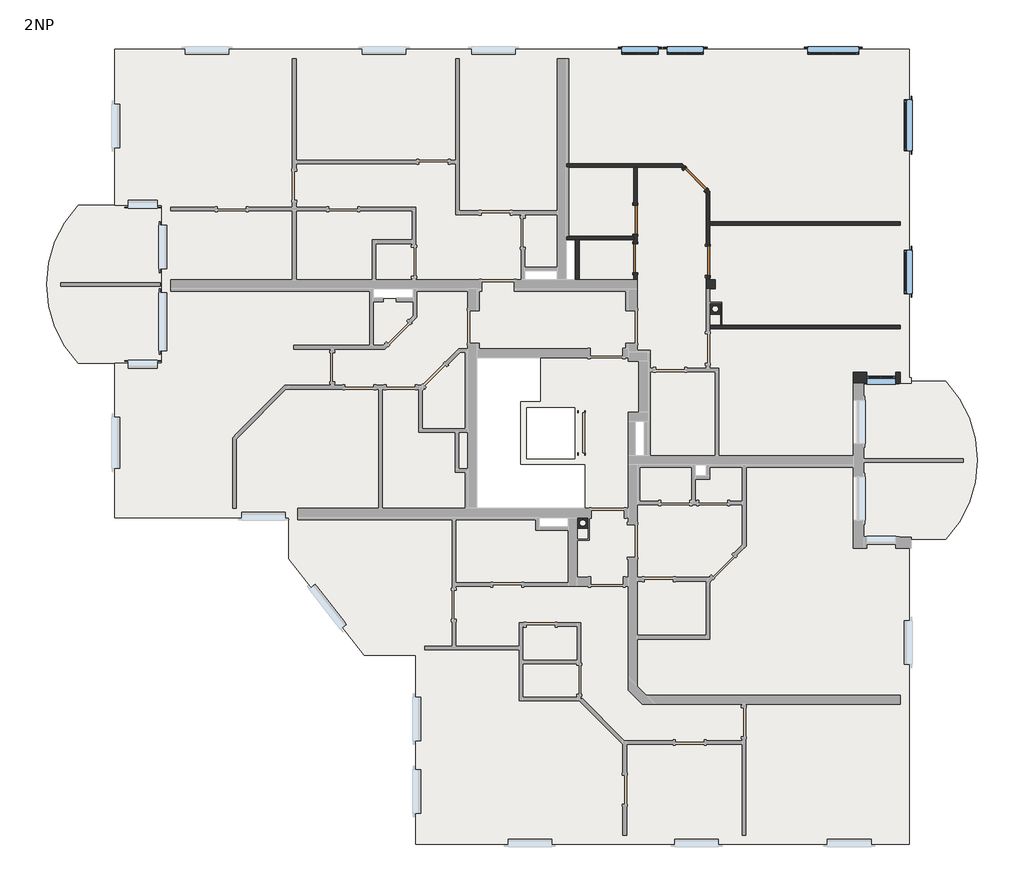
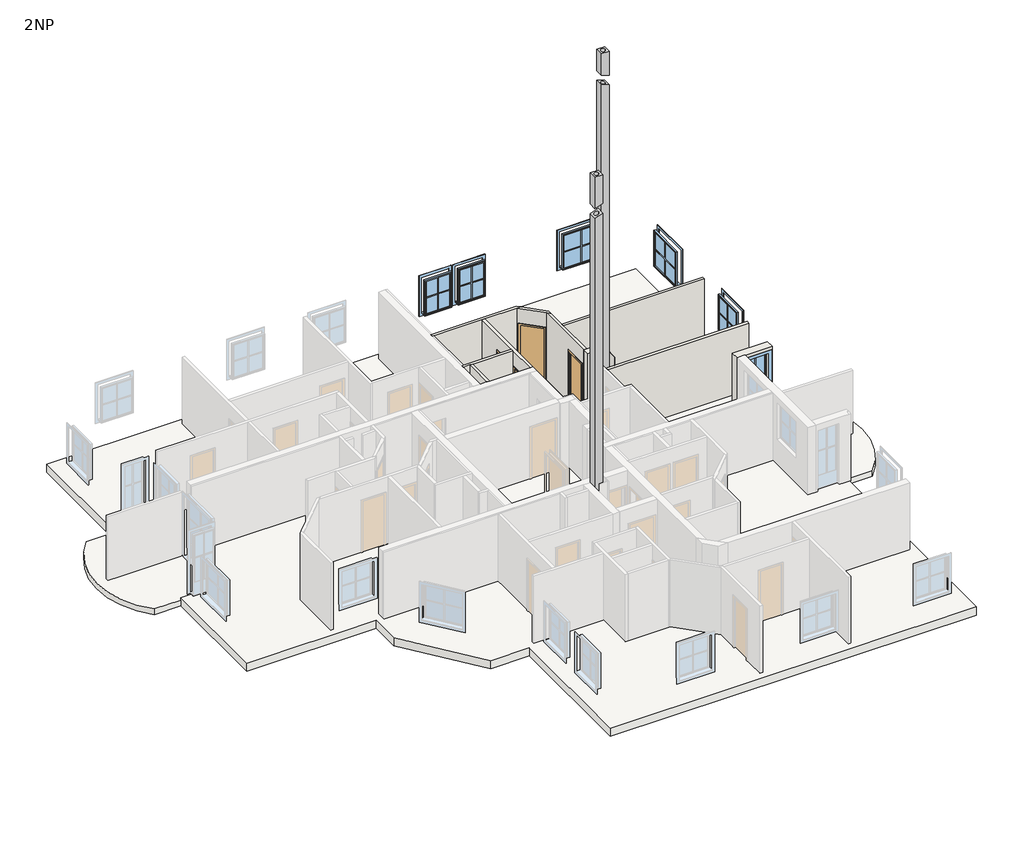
# One storey, part 4 of 4: 11 walls, 6 windows, 4 doors, 3 slabs, 2 columns.
"""IFC4 building model written with IfcOpenShell, lengths in millimetres."""

from ifc_helpers import new_model, si_unit, frame, origin, place, context, project, spatial, polyline, circle_curve, ellipse_curve, outline, extrude, faceted_brep, transform, mapped, element, save
from ifc_brep_helpers import plane_surface, cylinder_surface, revolved_surface, advanced_brep
from components import sd_800x2000_80f4ff25, standard_window_with_mullions_d3525f46, standard_window_with_mullions_80486b60, standard_window_with_mullions_12e20a72, window_2_4fa60929

model = new_model("IFC4")

# Units and contexts
model_context = context("Model", 3, world=origin())
ifc_project = project(units=[si_unit("LENGTHUNIT", "METRE", prefix="MILLI")], contexts=[model_context])

# Site, building, storey
site = spatial("IfcSite", under=ifc_project)
building = spatial("IfcBuilding", under=site)
storey = spatial("IfcBuildingStorey", under=building, Name="2NP", Elevation=2950.0)

# Columns
placement = place(None, origin())
element("IfcColumn", 1, ObjectType="AT Kamin : 300/300/160", at=placement, inside=storey, context=model_context, shape_type="AdvancedBrep", body=[
    advanced_brep(
    [(463.5618728, -2082.3709459, 17750.0), (163.5618728, -2082.3709459, 17750.0), (163.5618728, -2382.3709459, 17750.0), (463.5618728, -2382.3709459, 17750.0), (233.5618728, -2232.3709459, 17750.0), (393.5618728, -2232.3709459, 17750.0), (463.5618728, -2082.3709459, 16623.4506996), (163.5618728, -2082.3709459, 16525.9747908), (163.5618728, -2382.3709459, 16525.9747908), (463.5618728, -2382.3709459, 16623.4506996), (233.5618728, -2232.3709459, 16548.7191695), (393.5618728, -2232.3709459, 16600.7063209)],
    [
        (0, 1),
        (1, 2),
        (2, 3),
        (3, 0),
        (4, 5, circle_curve(frame((313.5618728, -2232.3709459, 17750.0), z_axis=(0.0, 0.0, -1.0), x_axis=(1.0, 0.0, 0.0)), 80.0)),
        (5, 4, circle_curve(frame((313.5618728, -2232.3709459, 17750.0), z_axis=(0.0, 0.0, -1.0), x_axis=(1.0, 0.0, 0.0)), 80.0)),
        (0, 6),
        (6, 7),
        (7, 1),
        (7, 8),
        (8, 2),
        (8, 9),
        (9, 3),
        (9, 6),
        (4, 10),
        (10, 11, ellipse_curve(frame((313.5618728, -2232.3709459, 16574.7127452), z_axis=(0.30901699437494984, 0.0, -0.9510565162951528), x_axis=(-0.9510565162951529, 0.0, -0.30901699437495)), 84.1169779, 80.0)),
        (11, 5),
        (11, 10, ellipse_curve(frame((313.5618728, -2232.3709459, 16574.7127452), z_axis=(0.30901699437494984, 0.0, -0.9510565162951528), x_axis=(-0.9510565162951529, 0.0, -0.30901699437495)), 84.1169779, 80.0)),
    ],
    [
        plane_surface(frame((163.5618728, -2082.3709459, 17750.0), z_axis=(0.0, 0.0, 1.0), x_axis=(-1.0, 0.0, 0.0))),
        plane_surface(frame((463.5618728, -2082.3709459, 17750.0), z_axis=(0.0, 1.0, 0.0), x_axis=(0.0, 0.0, -1.0))),
        plane_surface(frame((163.5618728, -2082.3709459, 17750.0), z_axis=(-1.0, 0.0, 0.0), x_axis=(0.0, 0.0, -1.0))),
        plane_surface(frame((163.5618728, -2382.3709459, 17750.0), z_axis=(0.0, -1.0, 0.0), x_axis=(0.0, 0.0, -1.0))),
        plane_surface(frame((463.5618728, -2382.3709459, 17750.0), z_axis=(1.0, 0.0, 0.0), x_axis=(0.0, 0.0, -1.0))),
        revolved_surface(polyline([(393.5618728, -2232.3709459, 16548.7191695), (393.5618728, -2232.3709459, 17750.0)]), (313.5618728, -2232.3709459, 2950.0), (0.0, 0.0, -1.0)),
        plane_surface(frame((-1841.5846805, 437.0391776, 15874.4631818), z_axis=(0.30901699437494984, 0.0, -0.9510565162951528), x_axis=(0.0, -1.0, 0.0))),
    ],
    [
        (0, [[1, 2, 3, 4], [5, 6]]),
        (1, [[-1, 7, 8, 9]]),
        (2, [[-2, -9, 10, 11]]),
        (3, [[-3, -11, 12, 13]]),
        (4, [[-4, -13, 14, -7]]),
        (5, [[-5, 15, 16, 17]]),
        (5, [[-6, -17, 18, -15]]),
        (6, [[-8, -14, -12, -10], [-16, -18]]),
    ],
),
    advanced_brep(
    [(463.5618728, -2082.3709459, 2950.0), (463.5618728, -2382.3709459, 2950.0), (163.5618728, -2382.3709459, 2950.0), (163.5618728, -2082.3709459, 2950.0), (233.5618728, -2232.3709459, 2950.0), (393.5618728, -2232.3709459, 2950.0), (463.5618728, -2082.3709459, 16244.9242989), (163.5618728, -2082.3709459, 16147.44839), (163.5618728, -2382.3709459, 16147.44839), (463.5618728, -2382.3709459, 16244.9242989), (233.5618728, -2232.3709459, 16170.1927688), (393.5618728, -2232.3709459, 16222.1799202), (163.5618728, -2082.3709459, 5580.0), (163.5618728, -2082.3709459, 5900.0), (163.5618728, -2082.3709459, 8530.0), (163.5618728, -2082.3709459, 11800.0), (463.5618728, -2082.3709459, 14750.0), (463.5618728, -2082.3709459, 11800.0), (463.5618728, -2082.3709459, 8850.0), (463.5618728, -2082.3709459, 5900.0)],
    [
        (0, 1),
        (1, 2),
        (2, 3),
        (3, 0),
        (4, 5, circle_curve(frame((313.5618728, -2232.3709459, 2950.0), z_axis=(0.0, 0.0, 1.0), x_axis=(1.0, 0.0, 0.0)), 80.0)),
        (5, 4, circle_curve(frame((313.5618728, -2232.3709459, 2950.0), z_axis=(0.0, 0.0, 1.0), x_axis=(1.0, 0.0, 0.0)), 80.0)),
        (6, 7),
        (7, 8),
        (8, 9),
        (9, 6),
        (10, 11, ellipse_curve(frame((313.5618728, -2232.3709459, 16196.1863445), z_axis=(0.30901699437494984, 0.0, -0.9510565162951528), x_axis=(-0.9510565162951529, 0.0, -0.30901699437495)), 84.1169779, 80.0)),
        (11, 10, ellipse_curve(frame((313.5618728, -2232.3709459, 16196.1863445), z_axis=(0.30901699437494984, 0.0, -0.9510565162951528), x_axis=(-0.9510565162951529, 0.0, -0.30901699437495)), 84.1169779, 80.0)),
        (3, 12),
        (12, 13),
        (13, 14),
        (14, 15),
        (15, 7),
        (6, 16),
        (16, 17),
        (17, 18),
        (18, 19),
        (19, 0),
        (2, 8),
        (1, 9),
        (5, 11),
        (10, 4),
    ],
    [
        plane_surface(frame((163.5618728, -2082.3709459, 2950.0), z_axis=(0.0, 0.0, -1.0), x_axis=(1.0, 0.0, 0.0))),
        plane_surface(frame((-1841.5846805, 437.0391776, 15495.936781), z_axis=(-0.30901699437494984, 0.0, 0.9510565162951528), x_axis=(0.0, -1.0, 0.0))),
        plane_surface(frame((463.5618728, -2082.3709459, 17750.0), z_axis=(0.0, 1.0, 0.0), x_axis=(0.0, 0.0, -1.0))),
        plane_surface(frame((163.5618728, -2082.3709459, 17750.0), z_axis=(-1.0, 0.0, 0.0), x_axis=(0.0, 0.0, -1.0))),
        plane_surface(frame((163.5618728, -2382.3709459, 17750.0), z_axis=(0.0, -1.0, 0.0), x_axis=(0.0, 0.0, -1.0))),
        plane_surface(frame((463.5618728, -2382.3709459, 17750.0), z_axis=(1.0, 0.0, 0.0), x_axis=(0.0, 0.0, -1.0))),
        revolved_surface(polyline([(393.5618728, -2232.3709459, 2950.0), (393.5618728, -2232.3709459, 16222.1799202)]), (313.5618728, -2232.3709459, 2950.0), (0.0, 0.0, -1.0)),
    ],
    [
        (0, [[1, 2, 3, 4], [5, 6]]),
        (1, [[7, 8, 9, 10], [11, 12]]),
        (2, [[-4, 13, 14, 15, 16, 17, -7, 18, 19, 20, 21, 22]]),
        (3, [[-3, 23, -8, -17, -16, -15, -14, -13]]),
        (4, [[-2, 24, -9, -23]]),
        (5, [[-1, -22, -21, -20, -19, -18, -10, -24]]),
        (6, [[-6, 25, -11, 26]]),
        (6, [[-5, -26, -12, -25]]),
    ],
),
])
element("IfcColumn", 2, ObjectType="AT Kamin : 300/300/160", at=placement, inside=storey, context=model_context, shape_type="AdvancedBrep", body=[
    advanced_brep(
    [(4112.8037835, 3816.2076978, 17750.0), (3812.8037835, 3816.2076978, 17750.0), (3812.8037835, 3516.2076978, 17750.0), (4112.8037835, 3516.2076978, 17750.0), (3882.8037835, 3666.2076978, 17750.0), (4042.8037835, 3666.2076978, 17750.0), (4112.8037835, 3816.2076978, 16807.8848523), (3812.8037835, 3816.2076978, 16905.3607612), (3812.8037835, 3516.2076978, 16905.3607612), (4112.8037835, 3516.2076978, 16807.8848523), (3882.8037835, 3666.2076978, 16882.6163825), (4042.8037835, 3666.2076978, 16830.6292311)],
    [
        (0, 1),
        (1, 2),
        (2, 3),
        (3, 0),
        (4, 5, circle_curve(frame((3962.8037835, 3666.2076978, 17750.0), z_axis=(0.0, 0.0, -1.0), x_axis=(1.0, 0.0, 0.0)), 80.0)),
        (5, 4, circle_curve(frame((3962.8037835, 3666.2076978, 17750.0), z_axis=(0.0, 0.0, -1.0), x_axis=(1.0, 0.0, 0.0)), 80.0)),
        (0, 6),
        (6, 7),
        (7, 1),
        (7, 8),
        (8, 2),
        (8, 9),
        (9, 3),
        (9, 6),
        (4, 10),
        (10, 11, ellipse_curve(frame((3962.8037835, 3666.2076978, 16856.6228068), z_axis=(-0.30901699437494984, 0.0, -0.9510565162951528), x_axis=(0.9510565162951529, 0.0, -0.30901699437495)), 84.1169779, 80.0)),
        (11, 5),
        (11, 10, ellipse_curve(frame((3962.8037835, 3666.2076978, 16856.6228068), z_axis=(-0.30901699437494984, 0.0, -0.9510565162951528), x_axis=(0.9510565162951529, 0.0, -0.30901699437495)), 84.1169779, 80.0)),
    ],
    [
        plane_surface(frame((3812.8037835, 3816.2076978, 17750.0), z_axis=(0.0, 0.0, 1.0), x_axis=(-1.0, 0.0, 0.0))),
        plane_surface(frame((4112.8037835, 3816.2076978, 17750.0), z_axis=(0.0, 1.0, 0.0), x_axis=(0.0, 0.0, -1.0))),
        plane_surface(frame((3812.8037835, 3816.2076978, 17750.0), z_axis=(-1.0, 0.0, 0.0), x_axis=(0.0, 0.0, -1.0))),
        plane_surface(frame((3812.8037835, 3516.2076978, 17750.0), z_axis=(0.0, -1.0, 0.0), x_axis=(0.0, 0.0, -1.0))),
        plane_surface(frame((4112.8037835, 3516.2076978, 17750.0), z_axis=(1.0, 0.0, 0.0), x_axis=(0.0, 0.0, -1.0))),
        revolved_surface(polyline([(4042.8037835, 3666.2076978, 16830.6292311), (4042.8037835, 3666.2076978, 17750.0)]), (3962.8037835, 3666.2076978, 2950.0), (0.0, 0.0, -1.0)),
        plane_surface(frame((6985.5802922, -11532.3709459, 15874.4631818), z_axis=(-0.30901699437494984, 0.0, -0.9510565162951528), x_axis=(0.0, 1.0, 0.0))),
    ],
    [
        (0, [[1, 2, 3, 4], [5, 6]]),
        (1, [[-1, 7, 8, 9]]),
        (2, [[-2, -9, 10, 11]]),
        (3, [[-3, -11, 12, 13]]),
        (4, [[-4, -13, 14, -7]]),
        (5, [[-5, 15, 16, 17]]),
        (5, [[-6, -17, 18, -15]]),
        (6, [[-8, -14, -12, -10], [-16, -18]]),
    ],
),
    advanced_brep(
    [(4112.8037835, 3816.2076978, 2950.0), (4112.8037835, 3516.2076978, 2950.0), (3812.8037835, 3516.2076978, 2950.0), (3812.8037835, 3816.2076978, 2950.0), (3882.8037835, 3666.2076978, 2950.0), (4042.8037835, 3666.2076978, 2950.0), (4112.8037835, 3816.2076978, 16429.3584516), (3812.8037835, 3816.2076978, 16526.8343605), (3812.8037835, 3516.2076978, 16526.8343605), (4112.8037835, 3516.2076978, 16429.3584516), (3882.8037835, 3666.2076978, 16504.0899817), (4042.8037835, 3666.2076978, 16452.1028303), (3812.8037835, 3816.2076978, 5900.0), (4112.8037835, 3816.2076978, 5900.0)],
    [
        (0, 1),
        (1, 2),
        (2, 3),
        (3, 0),
        (4, 5, circle_curve(frame((3962.8037835, 3666.2076978, 2950.0), z_axis=(0.0, 0.0, 1.0), x_axis=(1.0, 0.0, 0.0)), 80.0)),
        (5, 4, circle_curve(frame((3962.8037835, 3666.2076978, 2950.0), z_axis=(0.0, 0.0, 1.0), x_axis=(1.0, 0.0, 0.0)), 80.0)),
        (6, 7),
        (7, 8),
        (8, 9),
        (9, 6),
        (10, 11, ellipse_curve(frame((3962.8037835, 3666.2076978, 16478.096406), z_axis=(-0.30901699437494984, 0.0, -0.9510565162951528), x_axis=(0.9510565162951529, 0.0, -0.30901699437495)), 84.1169779, 80.0)),
        (11, 10, ellipse_curve(frame((3962.8037835, 3666.2076978, 16478.096406), z_axis=(-0.30901699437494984, 0.0, -0.9510565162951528), x_axis=(0.9510565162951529, 0.0, -0.30901699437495)), 84.1169779, 80.0)),
        (3, 12),
        (12, 7),
        (6, 13),
        (13, 0),
        (2, 8),
        (1, 9),
        (5, 11),
        (10, 4),
    ],
    [
        plane_surface(frame((3812.8037835, 3816.2076978, 2950.0), z_axis=(0.0, 0.0, -1.0), x_axis=(1.0, 0.0, 0.0))),
        plane_surface(frame((6985.5802922, -11532.3709459, 15495.936781), z_axis=(0.30901699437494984, 0.0, 0.9510565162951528), x_axis=(0.0, 1.0, 0.0))),
        plane_surface(frame((4112.8037835, 3816.2076978, 17750.0), z_axis=(0.0, 1.0, 0.0), x_axis=(0.0, 0.0, -1.0))),
        plane_surface(frame((3812.8037835, 3816.2076978, 17750.0), z_axis=(-1.0, 0.0, 0.0), x_axis=(0.0, 0.0, -1.0))),
        plane_surface(frame((3812.8037835, 3516.2076978, 17750.0), z_axis=(0.0, -1.0, 0.0), x_axis=(0.0, 0.0, -1.0))),
        plane_surface(frame((4112.8037835, 3516.2076978, 17750.0), z_axis=(1.0, 0.0, 0.0), x_axis=(0.0, 0.0, -1.0))),
        revolved_surface(polyline([(4042.8037835, 3666.2076978, 2950.0), (4042.8037835, 3666.2076978, 16504.0899817)]), (3962.8037835, 3666.2076978, 2950.0), (0.0, 0.0, -1.0)),
    ],
    [
        (0, [[1, 2, 3, 4], [5, 6]]),
        (1, [[7, 8, 9, 10], [11, 12]]),
        (2, [[-4, 13, 14, -7, 15, 16]]),
        (3, [[-3, 17, -8, -14, -13]]),
        (4, [[-2, 18, -9, -17]]),
        (5, [[-1, -16, -15, -10, -18]]),
        (6, [[-6, 19, -11, 20]]),
        (6, [[-5, -20, -12, -19]]),
    ],
),
])

# Doors
sd_800x2000_shape = sd_800x2000_80f4ff25(model_context)
element("IfcDoor", 3, ObjectType="JednokridlePlne : SD 800x2000", at=placement, inside=storey, context=model_context, shape_type="MappedRepresentation", body=[
    mapped(sd_800x2000_shape, transform((3762.8037835, 4988.8717038, 2950.0), x_axis=(0.0, -1.0, 0.0), y_axis=(1.0, 0.0, 0.0), z_axis=(0.0, 0.0, 1.0))),
])
element("IfcDoor", 4, ObjectType="JednokridlePlne : SD 800x2000", at=placement, inside=storey, context=model_context, shape_type="MappedRepresentation", body=[
    mapped(sd_800x2000_shape, transform((3410.8458954, 7240.2976203, 2950.0), x_axis=(0.7071067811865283, -0.7071067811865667, 0.0), y_axis=(0.7071067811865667, 0.7071067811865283, 0.0), z_axis=(0.0, 0.0, 1.0))),
])
element("IfcDoor", 5, ObjectType="JednokridlePlne : SD 800x2000", at=placement, inside=storey, context=model_context, shape_type="MappedRepresentation", body=[
    mapped(sd_800x2000_shape, transform((1762.8037835, 5063.1824611, 2950.0), x_axis=(0.0, 1.0, 0.0), y_axis=(-1.0, 0.0, 0.0), z_axis=(0.0, 0.0, 1.0))),
])
element("IfcDoor", 6, ObjectType="JednokridlePlne : SD 800x2000", at=placement, inside=storey, context=model_context, shape_type="MappedRepresentation", body=[
    mapped(sd_800x2000_shape, transform((1762.8037835, 6127.9240135, 2950.0), x_axis=(0.0, -1.0, 0.0), y_axis=(1.0, 0.0, 0.0), z_axis=(0.0, 0.0, 1.0))),
])

# Slabs
element("IfcSlab", 7, ObjectType="Concrete", at=placement, inside=storey, context=model_context, shape_type="AdvancedBrep", body=[
    advanced_brep(
    [(-11287.1962165, 6517.6290541, 2630.0), (-11287.1962165, 2167.6290541, 2630.0), (-12587.1962165, 2167.6290541, 2630.0), (-13585.5822754, 2167.6290541, 2630.0), (-13585.5822754, 6517.6290541, 2630.0), (-12587.1962165, 6517.6290541, 2630.0), (-11287.1962165, 6517.6290541, 2850.0), (-12587.1962165, 6517.6290541, 2850.0), (-13585.5822754, 6517.6290541, 2850.0), (-13585.5822754, 2167.6290541, 2850.0), (-12587.1962165, 2167.6290541, 2850.0), (-12337.1962165, 2167.6290541, 2850.0), (-11287.1962165, 2167.6290541, 2850.0), (-11287.1962165, 2217.6290541, 2850.0), (-11287.1962165, 6467.6290541, 2850.0)],
    [
        (0, 1),
        (1, 2),
        (2, 3),
        (3, 4, circle_curve(frame((-11337.1962165, 4342.6290541, 2630.0), z_axis=(0.0, 0.0, -1.0), x_axis=(1.0, 0.0, 0.0)), 3128.236703)),
        (4, 5),
        (5, 0),
        (6, 7),
        (7, 8),
        (8, 9, circle_curve(frame((-11337.1962165, 4342.6290541, 2850.0), z_axis=(0.0, 0.0, 1.0), x_axis=(1.0, 0.0, 0.0)), 3128.236703)),
        (9, 10),
        (10, 11),
        (11, 12),
        (12, 13),
        (13, 14),
        (14, 6),
        (0, 6),
        (12, 1),
        (9, 3),
        (8, 4),
    ],
    [
        plane_surface(frame((-11287.1962165, 6517.6290541, 2630.0), z_axis=(0.0, 0.0, -1.0), x_axis=(0.0, -1.0, 0.0))),
        plane_surface(frame((-11287.1962165, 6517.6290541, 2850.0), z_axis=(0.0, 0.0, 1.0), x_axis=(0.0, 1.0, 0.0))),
        plane_surface(frame((-11287.1962165, 6517.6290541, 2630.0), z_axis=(1.0, 0.0, 0.0), x_axis=(0.0, 0.0, 1.0))),
        plane_surface(frame((-11287.1962165, 2167.6290541, 2630.0), z_axis=(0.0, -1.0, 0.0), x_axis=(0.0, 0.0, 1.0))),
        cylinder_surface(frame((-11337.1962165, 4342.6290541, 2850.0), z_axis=(0.0, 0.0, -1.0), x_axis=(1.0, 0.0, 0.0)), 3128.236703),
        plane_surface(frame((-13585.5822754, 6517.6290541, 2630.0), z_axis=(0.0, 1.0, 0.0), x_axis=(0.0, 0.0, 1.0))),
    ],
    [
        (0, [[1, 2, 3, 4, 5, 6]]),
        (1, [[7, 8, 9, 10, 11, 12, 13, 14, 15]]),
        (2, [[-1, 16, -15, -14, -13, 17]]),
        (3, [[-3, -2, -17, -12, -11, -10, 18]]),
        (4, [[-4, -18, -9, 19]]),
        (5, [[-6, -5, -19, -8, -7, -16]]),
    ],
),
])
element("IfcSlab", 8, ObjectType="Concrete", at=placement, inside=storey, context=model_context, shape_type="AdvancedBrep", body=[
    advanced_brep(
    [(10311.1898424, 1667.6290541, 2630.0), (10311.1898424, -2682.3709459, 2630.0), (9362.8037835, -2682.3709459, 2630.0), (8012.8037835, -2682.3709459, 2630.0), (8012.8037835, 1667.6290541, 2630.0), (9362.8037835, 1667.6290541, 2630.0), (10311.1898424, 1667.6290541, 2850.0), (8012.8037835, 1667.6290541, 2850.0), (8012.8037835, -2682.3709459, 2850.0), (10311.1898424, -2682.3709459, 2850.0)],
    [
        (0, 1, circle_curve(frame((8062.8037835, -507.3709459, 2630.0), z_axis=(0.0, 0.0, -1.0), x_axis=(1.0, 0.0, 0.0)), 3128.236703)),
        (1, 2),
        (2, 3),
        (3, 4),
        (4, 5),
        (5, 0),
        (6, 7),
        (7, 8),
        (8, 9),
        (9, 6, circle_curve(frame((8062.8037835, -507.3709459, 2850.0), z_axis=(0.0, 0.0, 1.0), x_axis=(1.0, 0.0, 0.0)), 3128.236703)),
        (0, 6),
        (9, 1),
        (8, 3),
        (7, 4),
    ],
    [
        plane_surface(frame((11191.0404865, -507.3709459, 2630.0), z_axis=(0.0, 0.0, -1.0), x_axis=(0.0, -1.0, 0.0))),
        plane_surface(frame((11191.0404865, -507.3709459, 2850.0), z_axis=(0.0, 0.0, 1.0), x_axis=(0.0, 1.0, 0.0))),
        cylinder_surface(frame((8062.8037835, -507.3709459, 2850.0), z_axis=(0.0, 0.0, -1.0), x_axis=(1.0, 0.0, 0.0)), 3128.236703),
        plane_surface(frame((10311.1898424, -2682.3709459, 2630.0), z_axis=(0.0, -1.0, 0.0), x_axis=(0.0, 0.0, 1.0))),
        plane_surface(frame((8012.8037835, -2682.3709459, 2630.0), z_axis=(-1.0, 0.0, 0.0), x_axis=(0.0, 0.0, 1.0))),
        plane_surface(frame((8012.8037835, 1667.6290541, 2630.0), z_axis=(0.0, 1.0, 0.0), x_axis=(0.0, 0.0, 1.0))),
    ],
    [
        (0, [[1, 2, 3, 4, 5, 6]]),
        (1, [[7, 8, 9, 10]]),
        (2, [[-1, 11, -10, 12]]),
        (3, [[-3, -2, -12, -9, 13]]),
        (4, [[-4, -13, -8, 14]]),
        (5, [[-6, -5, -14, -7, -11]]),
    ],
),
])
element("IfcSlab", 9, ObjectType="STB200 + 120", at=placement, inside=storey, context=model_context, shape_type="Brep", body=[
    faceted_brep([(9312.8037835, 10817.6290541, 2630.0), (9312.8037835, 1767.6290541, 2630.0), (9362.8037835, 1767.6290541, 2630.0), (9362.8037835, 1667.6290541, 2630.0), (8012.8037835, 1667.6290541, 2630.0), (8012.8037835, -2682.3709459, 2630.0), (9362.8037835, -2682.3709459, 2630.0), (9362.8037835, -2782.3709459, 2630.0), (9312.8037835, -2782.3709459, 2630.0), (9312.8037835, -11082.3709459, 2630.0), (-4287.1962165, -11082.3709459, 2630.0), (-4287.1962165, -5882.3709459, 2630.0), (-5712.7420262, -5882.3709459, 2630.0), (-7787.1962165, -3215.2155584, 2630.0), (-7787.1962165, -2082.3709459, 2630.0), (-12587.1962165, -2082.3709459, 2630.0), (-12587.1962165, 2167.6290541, 2630.0), (-11287.1962165, 2167.6290541, 2630.0), (-11287.1962165, 6517.6290541, 2630.0), (-12587.1962165, 6517.6290541, 2630.0), (-12587.1962165, 10817.6290541, 2630.0), (-2607.1962165, 2317.6290541, 2630.0), (-2607.1962165, -1832.3709459, 2630.0), (362.8037835, -1832.3709459, 2630.0), (362.8037835, -632.3709459, 2630.0), (-1407.1962165, -632.3709459, 2630.0), (-1407.1962165, 1117.6290541, 2630.0), (-857.1962165, 1117.6290541, 2630.0), (-857.1962165, 2317.6290541, 2630.0), (-387.1962165, 4717.6290541, 2630.0), (-1287.1962165, 4717.6290541, 2630.0), (-1287.1962165, 4467.6290541, 2630.0), (-387.1962165, 4467.6290541, 2630.0), (112.8037835, 4467.6290541, 2630.0), (112.8037835, 5567.6290541, 2630.0), (-137.1962165, 5567.6290541, 2630.0), (-137.1962165, 4467.6290541, 2630.0), (-4357.1962165, 4217.6290541, 2630.0), (-5457.1962165, 4217.6290541, 2630.0), (-5457.1962165, 3967.6290541, 2630.0), (-4357.1962165, 3967.6290541, 2630.0), (2012.8037835, 567.6290541, 2630.0), (1762.8087381, 567.6290541, 2630.0), (1762.8087381, -382.3709459, 2630.0), (2012.8037835, -382.3709459, 2630.0), (3712.8037835, -632.3709459, 2630.0), (3412.8037835, -632.3709459, 2630.0), (3412.8037835, -932.3709459, 2630.0), (3712.8037835, -932.3709459, 2630.0), (-86.4381272, -2082.3709459, 2630.0), (-886.4381272, -2082.3709459, 2630.0), (-886.4381272, -2332.3709459, 2630.0), (-86.4381272, -2332.3709459, 2630.0), (87.8037835, 947.6290541, 2630.0), (-1237.1962165, 947.6290541, 2630.0), (-1237.1962165, -462.3709459, 2630.0), (87.8037835, -462.3709459, 2630.0), (9312.8037835, 1767.6290541, 2950.0), (9312.8037835, 10817.6290541, 2950.0), (-12587.1962165, 10817.6290541, 2950.0), (-12587.1962165, 6517.6290541, 2950.0), (-12207.370388, 6517.6290541, 2950.0), (-11407.370388, 6517.6290541, 2950.0), (-11287.1962165, 6517.6290541, 2950.0), (-11287.1962165, 4117.6290559, 2950.0), (-11287.1962165, 2517.6290559, 2950.0), (-11287.1962165, 2167.6290541, 2950.0), (-11407.3703663, 2167.6290541, 2950.0), (-12207.3703663, 2167.6290541, 2950.0), (-12587.1962165, 2167.6290541, 2950.0), (-12587.1962165, -2082.3709459, 2950.0), (-7787.1962165, -2082.3709459, 2950.0), (-7787.1962165, -3215.2155584, 2950.0), (-5712.7420262, -5882.3709459, 2950.0), (-4287.1962165, -5882.3709459, 2950.0), (-4287.1962165, -11082.3709459, 2950.0), (9312.8037835, -11082.3709459, 2950.0), (9312.8037835, -2782.3709459, 2950.0), (9362.8037835, -2782.3709459, 2950.0), (9362.8037835, -2632.3709459, 2950.0), (8932.977935, -2632.3709459, 2950.0), (8132.977935, -2632.3709459, 2950.0), (8062.8037835, -2632.3709459, 2950.0), (8062.8037835, 1617.6290541, 2950.0), (8132.977935, 1617.6290541, 2950.0), (8932.977935, 1617.6290541, 2950.0), (9062.8037835, 1617.6290541, 2950.0), (9362.8037835, 1617.6290541, 2950.0), (9362.8037835, 1767.6290541, 2950.0), (-2607.1962165, -1832.3709459, 2950.0), (-2607.1962165, 2317.6290541, 2950.0), (-857.1962165, 2317.6290541, 2950.0), (-857.1962165, 1117.6290541, 2950.0), (-1407.1962165, 1117.6290541, 2950.0), (-1407.1962165, -632.3709459, 2950.0), (362.8037835, -632.3709459, 2950.0), (362.8037835, -1832.3709459, 2950.0), (-1287.1962165, 4717.6290541, 2950.0), (-387.1962165, 4717.6290541, 2950.0), (-387.1962165, 4467.6290541, 2950.0), (-1287.1962165, 4467.6290541, 2950.0), (112.8037835, 5567.6290541, 2950.0), (112.8037835, 4467.6290541, 2950.0), (-137.1962165, 4467.6290541, 2950.0), (-137.1962165, 5567.6290541, 2950.0), (-5457.1962165, 4217.6290541, 2950.0), (-4357.1962165, 4217.6290541, 2950.0), (-4357.1962165, 3967.6290541, 2950.0), (-5457.1962165, 3967.6290541, 2950.0), (1762.8087381, 567.6290541, 2950.0), (2012.8037835, 567.6290541, 2950.0), (2012.8037835, -382.3709459, 2950.0), (1762.8087381, -382.3709459, 2950.0), (3412.8037835, -632.3709459, 2950.0), (3712.8037835, -632.3709459, 2950.0), (3712.8037835, -932.3709459, 2950.0), (3412.8037835, -932.3709459, 2950.0), (-886.4381272, -2082.3709459, 2950.0), (-86.4381272, -2082.3709459, 2950.0), (-86.4381272, -2332.3709459, 2950.0), (-886.4381272, -2332.3709459, 2950.0), (-1237.1962165, 947.6290541, 2950.0), (87.8037835, 947.6290541, 2950.0), (87.8037835, -462.3709459, 2950.0), (-1237.1962165, -462.3709459, 2950.0), (9362.8037835, 1617.6290541, 2850.0), (9362.8037835, 1667.6290541, 2850.0), (8062.8037835, 1617.6290541, 2850.0), (8062.8037835, -2632.3709459, 2850.0), (9362.8037835, -2632.3709459, 2850.0), (9362.8037835, -2682.3709459, 2850.0), (-12587.1962165, 2167.6290541, 2850.0), (-11287.1962165, 2167.6290541, 2850.0), (-11287.1962165, 6517.6290541, 2850.0), (-12587.1962165, 6517.6290541, 2850.0), (8012.8037835, -2682.3709459, 2850.0), (8012.8037835, 1667.6290541, 2850.0)], [[[0, 1, 2, 3, 4, 5, 6, 7, 8, 9, 10, 11, 12, 13, 14, 15, 16, 17, 18, 19, 20], [21, 22, 23, 24, 25, 26, 27, 28], [29, 30, 31, 32], [33, 34, 35, 36], [37, 38, 39, 40], [41, 42, 43, 44], [45, 46, 47, 48], [49, 50, 51, 52], [53, 54, 55, 56]], [[57, 58, 59, 60, 61, 62, 63, 64, 65, 66, 67, 68, 69, 70, 71, 72, 73, 74, 75, 76, 77, 78, 79, 80, 81, 82, 83, 84, 85, 86, 87, 88], [89, 90, 91, 92, 93, 94, 95, 96], [97, 98, 99, 100], [101, 102, 103, 104], [105, 106, 107, 108], [109, 110, 111, 112], [113, 114, 115, 116], [117, 118, 119, 120], [121, 122, 123, 124]], [[1, 0, 58, 57]], [[2, 1, 57, 88]], [[88, 87, 125, 126, 3, 2]], [[87, 86, 85, 84, 83, 127, 125]], [[83, 82, 128, 127]], [[82, 81, 80, 79, 129, 128]], [[79, 78, 7, 6, 130, 129]], [[8, 7, 78, 77]], [[9, 8, 77, 76]], [[10, 9, 76, 75]], [[11, 10, 75, 74]], [[12, 11, 74, 73]], [[13, 12, 73, 72]], [[14, 13, 72, 71]], [[15, 14, 71, 70]], [[16, 15, 70, 69, 131]], [[17, 16, 131, 69, 68, 67, 66, 132]], [[18, 17, 132, 66, 65, 64, 63, 133]], [[19, 18, 133, 63, 62, 61, 60, 134]], [[20, 19, 134, 60, 59]], [[0, 20, 59, 58]], [[22, 21, 90, 89]], [[23, 22, 89, 96]], [[24, 23, 96, 95]], [[25, 24, 95, 94]], [[26, 25, 94, 93]], [[27, 26, 93, 92]], [[28, 27, 92, 91]], [[21, 28, 91, 90]], [[30, 29, 98, 97]], [[31, 30, 97, 100]], [[32, 31, 100, 99]], [[29, 32, 99, 98]], [[34, 33, 102, 101]], [[35, 34, 101, 104]], [[36, 35, 104, 103]], [[33, 36, 103, 102]], [[38, 37, 106, 105]], [[39, 38, 105, 108]], [[40, 39, 108, 107]], [[37, 40, 107, 106]], [[42, 41, 110, 109]], [[43, 42, 109, 112]], [[44, 43, 112, 111]], [[41, 44, 111, 110]], [[46, 45, 114, 113]], [[47, 46, 113, 116]], [[48, 47, 116, 115]], [[45, 48, 115, 114]], [[50, 49, 118, 117]], [[51, 50, 117, 120]], [[52, 51, 120, 119]], [[49, 52, 119, 118]], [[54, 53, 122, 121]], [[55, 54, 121, 124]], [[56, 55, 124, 123]], [[53, 56, 123, 122]], [[135, 136, 126, 125, 127, 128, 129, 130]], [[5, 135, 130, 6]], [[136, 135, 5, 4]], [[136, 4, 3, 126]]]),
])

# Walls
element("IfcWall", 10, ObjectType="Exterior - 250+50mm", at=placement, inside=storey, context=model_context, shape_type="Brep", body=[
    faceted_brep([(7762.8037835, 1917.6290541, 2950.0), (7762.8037835, 1917.6290541, 5580.0), (9062.8037835, 1917.6290541, 5580.0), (9062.8037835, 1917.6290541, 2950.0), (8932.977935, 1917.6290541, 2950.0), (8932.977935, 1917.6290541, 5350.0), (8132.977935, 1917.6290541, 5350.0), (8132.977935, 1917.6290541, 2950.0), (7762.8037835, 1617.6290541, 5580.0), (7762.8037835, 1617.6290541, 2950.0), (8062.8037835, 1617.6290541, 2950.0), (8132.977935, 1617.6290541, 2950.0), (8132.977935, 1617.6290541, 5350.0), (8932.977935, 1617.6290541, 5350.0), (8932.977935, 1617.6290541, 2950.0), (9062.8037835, 1617.6290541, 2950.0), (9062.8037835, 1617.6290541, 5580.0), (8062.8037835, 1617.6290541, 5580.0)], [[[0, 1, 2, 3, 4, 5, 6, 7]], [[8, 9, 10, 11, 12, 13, 14, 15, 16, 17]], [[9, 0, 7, 11, 10]], [[3, 15, 14, 4]], [[1, 0, 9, 8]], [[3, 2, 16, 15]], [[16, 2, 1, 8, 17]], [[5, 4, 14, 13]], [[6, 5, 13, 12]], [[7, 6, 12, 11]]]),
])
element("IfcWall", 11, ObjectType="Interior - 100mm", at=placement, inside=storey, context=model_context, shape_type="Brep", body=[
    faceted_brep([(-137.1962165, 7567.6290541, 2950.0), (-72.1962165, 7567.6290541, 2950.0), (1712.8037835, 7567.6290541, 2950.0), (1812.8037835, 7567.6290541, 2950.0), (3012.8037835, 7567.6290541, 2950.0), (3154.2251397, 7567.6290541, 2950.0), (3154.2251397, 7567.6290541, 5580.0), (3012.8037835, 7567.6290541, 5580.0), (1812.8037835, 7567.6290541, 5580.0), (1712.8037835, 7567.6290541, 5580.0), (-72.1962165, 7567.6290541, 5580.0), (-137.1962165, 7567.6290541, 5580.0), (-137.1962165, 7667.6290541, 2950.0), (-137.1962165, 7667.6290541, 5580.0), (3054.2251397, 7667.6290541, 5580.0), (3054.2251397, 7667.6290541, 2950.0)], [[[0, 1, 2, 3, 4, 5, 6, 7, 8, 9, 10, 11]], [[12, 13, 14, 15]], [[5, 4, 3, 2, 1, 0, 12, 15]], [[6, 5, 15, 14]], [[0, 11, 13, 12]], [[11, 10, 9, 8, 7, 6, 14, 13]]]),
])
element("IfcWall", 12, ObjectType="Interior - 100mm", at=placement, inside=storey, context=model_context, shape_type="Brep", body=[
    faceted_brep([(3812.8037835, 6767.6290541, 2950.0), (3812.8037835, 6767.6290541, 5580.0), (3712.8037835, 6867.6290541, 5580.0), (3012.8037835, 7567.6290541, 5580.0), (3012.8037835, 7567.6290541, 2950.0), (3092.6478438, 7487.7849937, 2950.0), (3092.6478438, 7487.7849937, 4950.0), (3658.3332688, 6922.0995688, 4950.0), (3658.3332688, 6922.0995688, 2950.0), (3712.8037835, 6867.6290541, 2950.0), (3812.8037835, 6909.0504103, 5580.0), (3812.8037835, 6909.0504103, 2950.0), (3729.0439469, 6992.8102469, 2950.0), (3729.0439469, 6992.8102469, 4950.0), (3163.3585219, 7558.4956719, 4950.0), (3163.3585219, 7558.4956719, 2950.0), (3154.2251397, 7567.6290541, 2950.0), (3154.2251397, 7567.6290541, 5580.0)], [[[0, 1, 2, 3, 4, 5, 6, 7, 8, 9]], [[10, 11, 12, 13, 14, 15, 16, 17]], [[11, 0, 9, 8, 12]], [[4, 16, 15, 5]], [[1, 0, 11, 10]], [[4, 3, 17, 16]], [[3, 2, 1, 10, 17]], [[7, 13, 12, 8]], [[13, 7, 6, 14]], [[14, 6, 5, 15]]]),
])
element("IfcWall", 13, ObjectType="Interior - 100mm", at=placement, inside=storey, context=model_context, shape_type="Brep", body=[
    faceted_brep([(3712.8037835, 4588.8717038, 4950.0), (3712.8037835, 4588.8717038, 2950.0), (3712.8037835, 4467.6290541, 2950.0), (3712.8037835, 4467.6290541, 5580.0), (3712.8037835, 6867.6290541, 5580.0), (3712.8037835, 6867.6290541, 2950.0), (3712.8037835, 5388.8717038, 2950.0), (3712.8037835, 5388.8717038, 4950.0), (3812.8037835, 4467.6290541, 2950.0), (3812.8037835, 4588.8717038, 2950.0), (3812.8037835, 4588.8717038, 4950.0), (3812.8037835, 5388.8717038, 4950.0), (3812.8037835, 5388.8717038, 2950.0), (3812.8037835, 5967.6290541, 2950.0), (3812.8037835, 6067.6290541, 2950.0), (3812.8037835, 6767.6290541, 2950.0), (3812.8037835, 6767.6290541, 5580.0), (3812.8037835, 6067.6290541, 5580.0), (3812.8037835, 5967.6290541, 5580.0), (3812.8037835, 4467.6290541, 5580.0)], [[[0, 1, 2, 3, 4, 5, 6, 7]], [[8, 9, 10, 11, 12, 13, 14, 15, 16, 17, 18, 19]], [[2, 1, 9, 8]], [[6, 5, 15, 14, 13, 12]], [[5, 4, 16, 15]], [[3, 2, 8, 19]], [[4, 3, 19, 18, 17, 16]], [[10, 9, 1, 0]], [[11, 10, 0, 7]], [[12, 11, 7, 6]]]),
])
element("IfcWall", 14, ObjectType="Interior - 100mm", at=placement, inside=storey, context=model_context, shape_type="SweptSolid", body=[
    extrude(outline(polyline([(9062.8037835, 5967.6290541), (3812.8037835, 5967.6290541), (3812.8037835, 6067.6290541), (9062.8037835, 6067.6290541), (9062.8037835, 5967.6290541)])), frame((0.0, 0.0, 2950.0), z_axis=(0.0, 0.0, 1.0), x_axis=(1.0, 0.0, 0.0)), (0.0, 0.0, 1.0), 2630.0),
])
element("IfcWall", 15, ObjectType="Interior - 100mm", at=placement, inside=storey, context=model_context, shape_type="Brep", body=[
    faceted_brep([(1712.8037835, 5727.9240135, 4950.0), (1712.8037835, 5727.9240135, 2950.0), (1712.8037835, 5667.6290541, 2950.0), (1712.8037835, 5567.6290541, 2950.0), (1712.8037835, 5463.1824611, 2950.0), (1712.8037835, 5463.1824611, 4950.0), (1712.8037835, 4663.1824611, 4950.0), (1712.8037835, 4663.1824611, 2950.0), (1712.8037835, 4467.6290541, 2950.0), (1712.8037835, 4467.6290541, 5580.0), (1712.8037835, 5567.6290541, 5580.0), (1712.8037835, 5667.6290541, 5580.0), (1712.8037835, 7567.6290541, 5580.0), (1712.8037835, 7567.6290541, 2950.0), (1712.8037835, 6527.9240135, 2950.0), (1712.8037835, 6527.9240135, 4950.0), (1812.8037835, 5463.1824611, 2950.0), (1812.8037835, 5727.9240135, 2950.0), (1812.8037835, 5727.9240135, 4950.0), (1812.8037835, 6527.9240135, 4950.0), (1812.8037835, 6527.9240135, 2950.0), (1812.8037835, 7567.6290541, 2950.0), (1812.8037835, 7567.6290541, 5580.0), (1812.8037835, 4467.6290541, 5580.0), (1812.8037835, 4467.6290541, 2950.0), (1812.8037835, 4663.1824611, 2950.0), (1812.8037835, 4663.1824611, 4950.0), (1812.8037835, 5463.1824611, 4950.0)], [[[0, 1, 2, 3, 4, 5, 6, 7, 8, 9, 10, 11, 12, 13, 14, 15]], [[16, 17, 18, 19, 20, 21, 22, 23, 24, 25, 26, 27]], [[4, 3, 2, 1, 17, 16]], [[25, 24, 8, 7]], [[14, 13, 21, 20]], [[13, 12, 22, 21]], [[9, 8, 24, 23]], [[12, 11, 10, 9, 23, 22]], [[5, 4, 16, 27]], [[6, 5, 27, 26]], [[7, 6, 26, 25]], [[18, 17, 1, 0]], [[19, 18, 0, 15]], [[20, 19, 15, 14]]]),
])
element("IfcWall", 16, ObjectType="Interior - 100mm", at=placement, inside=storey, context=model_context, shape_type="Brep", body=[
    faceted_brep([(1712.8037835, 5667.6290541, 2950.0), (-137.1962165, 5667.6290541, 2950.0), (-137.1962165, 5667.6290541, 5580.0), (1712.8037835, 5667.6290541, 5580.0), (1712.8037835, 5567.6290541, 2950.0), (1712.8037835, 5567.6290541, 5580.0), (212.8037835, 5567.6290541, 5580.0), (112.8037835, 5567.6290541, 5580.0), (-137.1962165, 5567.6290541, 5580.0), (-137.1962165, 5567.6290541, 2950.0), (112.8037835, 5567.6290541, 2950.0), (212.8037835, 5567.6290541, 2950.0)], [[[0, 1, 2, 3]], [[4, 5, 6, 7, 8, 9, 10, 11]], [[1, 0, 4, 11, 10, 9]], [[2, 1, 9, 8]], [[0, 3, 5, 4]], [[3, 2, 8, 7, 6, 5]]]),
])
element("IfcWall", 17, ObjectType="Interior - 100mm", at=placement, inside=storey, context=model_context, shape_type="SweptSolid", body=[
    extrude(outline(polyline([(112.8037835, 4467.6290541), (112.8037835, 5567.6290541), (212.8037835, 5567.6290541), (212.8037835, 4467.6290541), (112.8037835, 4467.6290541)])), frame((0.0, 0.0, 2950.0), z_axis=(0.0, 0.0, 1.0), x_axis=(1.0, 0.0, 0.0)), (0.0, 0.0, 1.0), 2630.0),
])
element("IfcWall", 18, ObjectType="Interior - 100mm", at=placement, inside=storey, context=model_context, shape_type="Brep", body=[
    faceted_brep([(9062.8037835, 3216.2076978, 2950.0), (4142.8037835, 3216.2076978, 2950.0), (4112.8037835, 3216.2076978, 2950.0), (3812.8037835, 3216.2076978, 2950.0), (3812.8037835, 3216.2076978, 5580.0), (9062.8037835, 3216.2076978, 5580.0), (9062.8037835, 3116.2076978, 2950.0), (9062.8037835, 3116.2076978, 5580.0), (3812.8037835, 3116.2076978, 5580.0), (3812.8037835, 3116.2076978, 2950.0)], [[[0, 1, 2, 3, 4, 5]], [[6, 7, 8, 9]], [[3, 2, 1, 0, 6, 9]], [[4, 3, 9, 8]], [[0, 5, 7, 6]], [[5, 4, 8, 7]]]),
])
element("IfcWall", 19, ObjectType="Interior - 250mm", at=placement, inside=storey, context=model_context, shape_type="Brep", body=[
    faceted_brep([(3712.8037835, 4217.6290541, 2950.0), (3812.8037835, 4217.6290541, 2950.0), (3962.8037835, 4217.6290541, 2950.0), (3962.8037835, 4217.6290541, 5580.0), (3812.8037835, 4217.6290541, 5580.0), (3712.8037835, 4217.6290541, 5580.0), (3712.8037835, 4467.6290541, 2950.0), (3712.8037835, 4467.6290541, 5580.0), (3812.8037835, 4467.6290541, 5580.0), (3962.8037835, 4467.6290541, 5580.0), (3962.8037835, 4467.6290541, 2950.0), (3812.8037835, 4467.6290541, 2950.0)], [[[0, 1, 2, 3, 4, 5]], [[6, 7, 8, 9, 10, 11]], [[2, 1, 0, 6, 11, 10]], [[3, 2, 10, 9]], [[0, 5, 7, 6]], [[5, 4, 3, 9, 8, 7]]]),
])
element("IfcWall", 20, ObjectType="Interior - 300mm", at=placement, inside=storey, context=model_context, shape_type="Brep", body=[
    faceted_brep([(4112.8037835, 3816.2076978, 2950.0), (4112.8037835, 3516.2076978, 2950.0), (4112.8037835, 3216.2076978, 2950.0), (4112.8037835, 3216.2076978, 5900.0), (4112.8037835, 3816.2076978, 5900.0), (4142.8037835, 3816.2076978, 2950.0), (4142.8037835, 3816.2076978, 5900.0), (4142.8037835, 3216.2076978, 5900.0), (4142.8037835, 3216.2076978, 2950.0)], [[[0, 1, 2, 3, 4]], [[5, 6, 7, 8]], [[2, 1, 0, 5, 8]], [[4, 3, 7, 6]], [[0, 4, 6, 5]], [[3, 2, 8, 7]]]),
])

# Windows
standard_window_with_mullions_shape = standard_window_with_mullions_d3525f46(model_context)
element("IfcWindow", 21, ObjectType="Standard Window with mullions : 1400/1400", at=placement, inside=storey, context=model_context, shape_type="MappedRepresentation", body=[
    mapped(standard_window_with_mullions_shape, transform((7214.6462462, 10717.6290541, 2950.0), x_axis=(1.0, 0.0, 0.0), y_axis=(0.0, 1.0, 0.0), z_axis=(0.0, 0.0, 1.0))),
])
element("IfcWindow", 22, ObjectType="Standard Window with mullions : 1400/1400", at=placement, inside=storey, context=model_context, shape_type="MappedRepresentation", body=[
    mapped(standard_window_with_mullions_shape, transform((9212.8037835, 8725.6927772, 2950.0), x_axis=(0.0, -1.0, 0.0), y_axis=(1.0, 0.0, 0.0), z_axis=(0.0, 0.0, 1.0))),
])
standard_window_with_mullions_2_shape = standard_window_with_mullions_80486b60(model_context)
element("IfcWindow", 23, ObjectType="Standard Window with mullions : 1200/1400", at=placement, inside=storey, context=model_context, shape_type="MappedRepresentation", body=[
    mapped(standard_window_with_mullions_2_shape, transform((9212.8037835, 4688.4530256, 2950.0), x_axis=(0.0, -1.0, 0.0), y_axis=(1.0, 0.0, 0.0), z_axis=(0.0, 0.0, 1.0))),
])
standard_window_with_mullions_3_shape = standard_window_with_mullions_12e20a72(model_context)
element("IfcWindow", 24, ObjectType="Standard Window with mullions : 1000/1400", at=placement, inside=storey, context=model_context, shape_type="MappedRepresentation", body=[
    mapped(standard_window_with_mullions_3_shape, transform((1887.8037835, 10717.6290541, 2950.0), x_axis=(1.0, 0.0, 0.0), y_axis=(0.0, 1.0, 0.0), z_axis=(0.0, 0.0, 1.0))),
])
element("IfcWindow", 25, ObjectType="Standard Window with mullions : 1000/1400", at=placement, inside=storey, context=model_context, shape_type="MappedRepresentation", body=[
    mapped(standard_window_with_mullions_3_shape, transform((3137.8037835, 10717.6290541, 2950.0), x_axis=(1.0, 0.0, 0.0), y_axis=(0.0, 1.0, 0.0), z_axis=(0.0, 0.0, 1.0))),
])
window_2_shape = window_2_4fa60929(model_context)
element("IfcWindow", 26, ObjectType="Window 2 : 800/2400", at=placement, inside=storey, context=model_context, shape_type="MappedRepresentation", body=[
    mapped(window_2_shape, transform((8532.977935, 1767.6290541, 2950.0), x_axis=(-1.0, 0.0, 0.0), y_axis=(0.0, -1.0, 0.0), z_axis=(0.0, 0.0, 1.0))),
])

save(model, "model.ifc")
